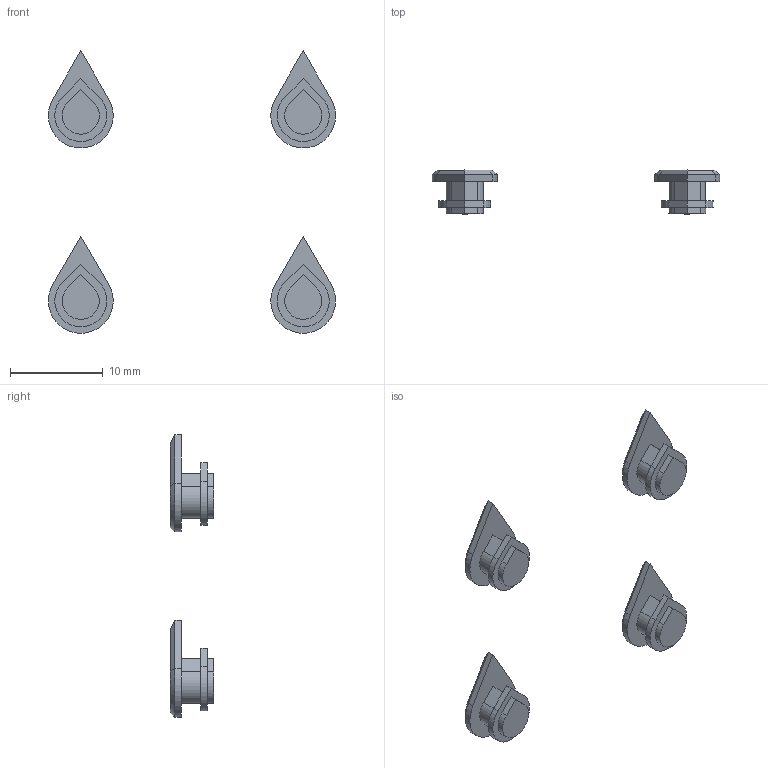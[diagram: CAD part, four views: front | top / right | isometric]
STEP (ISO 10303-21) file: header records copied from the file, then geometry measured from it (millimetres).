
FILE_DESCRIPTION(('Open CASCADE Model'),'2;1');
FILE_NAME('Open CASCADE Shape Model','2026-10-16T13:50:01',('Author'),( 'Open CASCADE'),'Open CASCADE STEP processor 8.0','build123d', 'Unknown');
FILE_SCHEMA(('AUTOMOTIVE_DESIGN { 1 0 10303 214 1 1 1 1 }'));
Length unit declared in the file: millimetre
Products named in the file (1): COMPOUND
Bounding box: 31 x 4.7 x 30.5 mm (x, y, z)
Volume: 436.3 mm3; surface area: 776.7 mm2
Topology: 4 solids, 4 shells, 80 faces, 168 edges, 108 vertices
Faces by surface type: plane 60, cylinder 16, cone 4
Entity records: 4272 total; most frequent: CARTESIAN_POINT 829, DIRECTION 626, LINE 372, VECTOR 372, ORIENTED_EDGE 336, PCURVE 336, DEFINITIONAL_REPRESENTATION 336, EDGE_CURVE 168
